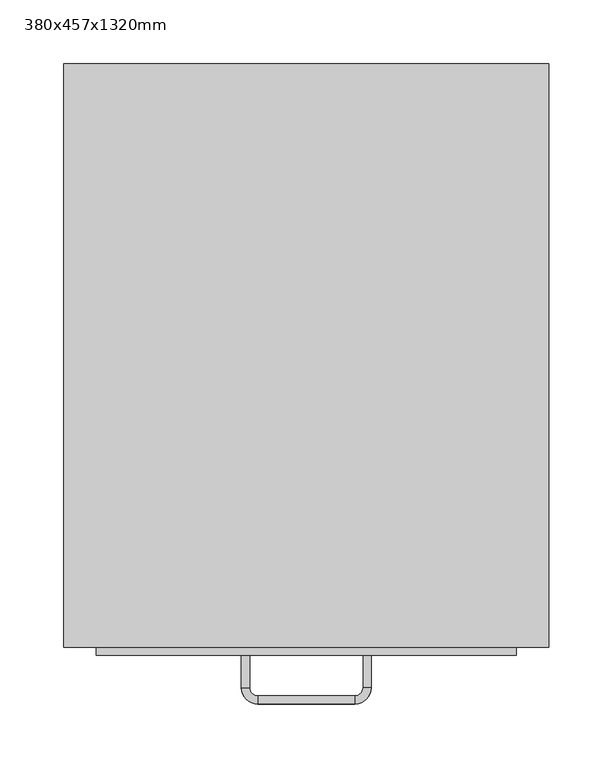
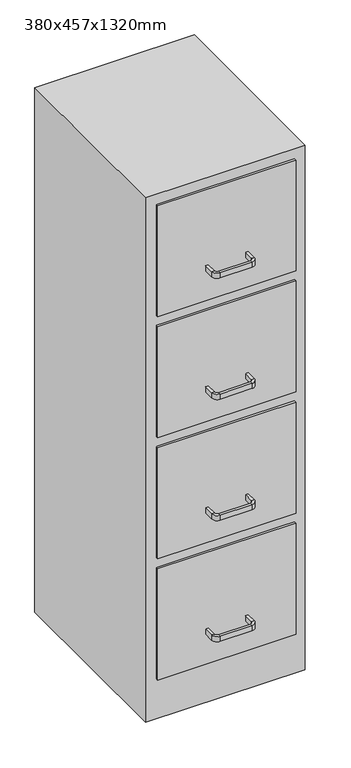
"""IFC4 building model written with IfcOpenShell, lengths in millimetres: furniture geometry, Furniture_Filing_Cabinetx4 : 380x457x1320mm."""

from ifc_helpers import new_model, si_unit, frame, origin, origin_with_axes, place, context, project, spatial, polyline, circle_curve, outline, extrude, source, transform, mapped, element, save
from ifc_brep_helpers import plane_surface, cylinder_surface, revolved_surface, advanced_brep


def furniture_380x457x1320mm_2699b43c(model_context):
    return source(origin(), model_context, "Body", "SolidModel", [
        extrude(outline(polyline([(62.103553, 86.3656999), (62.103553, -370.6343001), (-317.896447, -370.6343001), (-317.896447, 86.3656999), (62.103553, 86.3656999)])), origin_with_axes(), (0.0, 0.0, 1.0), 1320.0),
        extrude(outline(polyline([(36.703553, -376.9843001), (-292.496447, -376.9843001), (-292.496447, -370.6343001), (36.703553, -370.6343001), (36.703553, -376.9843001)])), frame((0.0, 0.0, 1016.0), z_axis=(0.0, 0.0, 1.0), x_axis=(1.0, 0.0, 0.0)), (0.0, 0.0, 1.0), 278.6),
        extrude(outline(polyline([(36.703553, -376.9843001), (-292.496447, -376.9843001), (-292.496447, -370.6343001), (36.703553, -370.6343001), (36.703553, -376.9843001)])), frame((0.0, 0.0, 711.2), z_axis=(0.0, 0.0, 1.0), x_axis=(1.0, 0.0, 0.0)), (0.0, 0.0, 1.0), 279.4),
        extrude(outline(polyline([(36.703553, -376.9843001), (-292.496447, -376.9843001), (-292.496447, -370.6343001), (36.703553, -370.6343001), (36.703553, -376.9843001)])), frame((0.0, 0.0, 406.4), z_axis=(0.0, 0.0, 1.0), x_axis=(1.0, 0.0, 0.0)), (0.0, 0.0, 1.0), 279.4),
        extrude(outline(polyline([(36.703553, -376.9843001), (-292.496447, -376.9843001), (-292.496447, -370.6343001), (36.703553, -370.6343001), (36.703553, -376.9843001)])), frame((0.0, 0.0, 101.6), z_axis=(0.0, 0.0, 1.0), x_axis=(1.0, 0.0, 0.0)), (0.0, 0.0, 1.0), 279.4),
        advanced_brep(
        [(-172.346447, -376.9843001, 177.8), (-178.696447, -376.9843001, 177.8), (-178.696447, -376.9843001, 190.5), (-172.346447, -376.9843001, 190.5), (-172.346447, -402.3843001, 177.8), (-178.696447, -402.3843001, 177.8), (-178.696447, -402.3843001, 190.5), (-172.346447, -402.3843001, 190.5), (-165.996447, -415.0843001, 177.8), (-165.996447, -408.7343001, 177.8), (-165.996447, -415.0843001, 190.5), (-165.996447, -408.7343001, 190.5), (-89.796447, -408.7343001, 177.8), (-89.796447, -415.0843001, 177.8), (-89.796447, -415.0843001, 190.5), (-89.796447, -408.7343001, 190.5), (-77.096447, -402.3843001, 177.8), (-83.446447, -402.3843001, 177.8), (-77.096447, -402.3843001, 190.5), (-83.446447, -402.3843001, 190.5), (-83.446447, -376.9843001, 177.8), (-83.446447, -376.9843001, 190.5), (-77.096447, -376.9843001, 190.5), (-77.096447, -376.9843001, 177.8)],
        [
            (0, 1),
            (1, 2),
            (2, 3),
            (3, 0),
            (0, 4),
            (4, 5),
            (5, 1),
            (5, 6),
            (6, 2),
            (6, 7),
            (7, 3),
            (7, 4),
            (8, 5, circle_curve(frame((-165.996447, -402.3843001, 177.8), z_axis=(0.0, 0.0, -1.0), x_axis=(-1.0, 0.0, 0.0)), 12.7)),
            (4, 9, circle_curve(frame((-165.996447, -402.3843001, 177.8), z_axis=(0.0, 0.0, 1.0), x_axis=(-1.0, 0.0, 0.0)), 6.35)),
            (9, 8),
            (10, 6, circle_curve(frame((-165.996447, -402.3843001, 190.5), z_axis=(0.0, 0.0, -1.0), x_axis=(-1.0, 0.0, 0.0)), 12.7)),
            (8, 10),
            (11, 7, circle_curve(frame((-165.996447, -402.3843001, 190.5), z_axis=(0.0, 0.0, -1.0), x_axis=(-1.0, 0.0, 0.0)), 6.35)),
            (10, 11),
            (11, 9),
            (9, 12),
            (12, 13),
            (13, 8),
            (13, 14),
            (14, 10),
            (14, 15),
            (15, 11),
            (15, 12),
            (16, 13, circle_curve(frame((-89.796447, -402.3843001, 177.8), z_axis=(0.0, 0.0, -1.0), x_axis=(0.0, -1.0, 0.0)), 12.7)),
            (12, 17, circle_curve(frame((-89.796447, -402.3843001, 177.8), z_axis=(0.0, 0.0, 1.0), x_axis=(0.0, -1.0, 0.0)), 6.35)),
            (17, 16),
            (18, 14, circle_curve(frame((-89.796447, -402.3843001, 190.5), z_axis=(0.0, 0.0, -1.0), x_axis=(0.0, -1.0, 0.0)), 12.7)),
            (16, 18),
            (19, 15, circle_curve(frame((-89.796447, -402.3843001, 190.5), z_axis=(0.0, 0.0, -1.0), x_axis=(0.0, -1.0, 0.0)), 6.35)),
            (18, 19),
            (19, 17),
            (20, 21),
            (21, 22),
            (22, 23),
            (23, 20),
            (17, 20),
            (23, 16),
            (22, 18),
            (21, 19),
        ],
        [
            plane_surface(frame((-1283.614694, -376.9843001, 0.0), z_axis=(0.0, 1.0, 0.0), x_axis=(0.0, 0.0, -1.0))),
            plane_surface(frame((-172.346447, -376.9843001, 177.8), z_axis=(0.0, 0.0, -1.0), x_axis=(0.0, -1.0, 0.0))),
            plane_surface(frame((-178.696447, -376.9843001, 177.8), z_axis=(-1.0, 0.0, 0.0), x_axis=(0.0, -1.0, 0.0))),
            plane_surface(frame((-178.696447, -376.9843001, 190.5), z_axis=(0.0, 0.0, 1.0), x_axis=(0.0, -1.0, 0.0))),
            plane_surface(frame((-172.346447, -376.9843001, 190.5), z_axis=(1.0, 0.0, 0.0), x_axis=(0.0, -1.0, 0.0))),
            plane_surface(frame((-165.996447, -402.3843001, 177.8), z_axis=(0.0, 0.0, -1.0), x_axis=(-1.0, 0.0, 0.0))),
            cylinder_surface(frame((-165.996447, -402.3843001, 0.0), z_axis=(0.0, 0.0, 1.0), x_axis=(-1.0, 0.0, 0.0)), 12.7),
            plane_surface(frame((-165.996447, -402.3843001, 190.5), z_axis=(0.0, 0.0, 1.0), x_axis=(-1.0, 0.0, 0.0))),
            revolved_surface(polyline([(-172.34644699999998, -402.3843001, 190.5), (-172.34644699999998, -402.3843001, 177.8)]), (-165.996447, -402.3843001, 0.0), (0.0, 0.0, 1.0)),
            plane_surface(frame((-165.996447, -408.7343001, 177.8), z_axis=(0.0, 0.0, -1.0), x_axis=(1.0, 0.0, 0.0))),
            plane_surface(frame((-165.996447, -415.0843001, 177.8), z_axis=(0.0, -1.0, 0.0), x_axis=(1.0, 0.0, 0.0))),
            plane_surface(frame((-165.996447, -415.0843001, 190.5), z_axis=(0.0, 0.0, 1.0), x_axis=(1.0, 0.0, 0.0))),
            plane_surface(frame((-165.996447, -408.7343001, 190.5), z_axis=(0.0, 1.0, 0.0), x_axis=(1.0, 0.0, 0.0))),
            plane_surface(frame((-89.796447, -402.3843001, 177.8), z_axis=(0.0, 0.0, -1.0), x_axis=(0.0, -1.0, 0.0))),
            cylinder_surface(frame((-89.796447, -402.3843001, 0.0), z_axis=(0.0, 0.0, 1.0), x_axis=(0.0, -1.0, 0.0)), 12.7),
            plane_surface(frame((-89.796447, -402.3843001, 190.5), z_axis=(0.0, 0.0, 1.0), x_axis=(0.0, -1.0, 0.0))),
            revolved_surface(polyline([(-89.796447, -408.73430010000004, 190.5), (-89.796447, -408.73430010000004, 177.8)]), (-89.796447, -402.3843001, 0.0), (0.0, 0.0, 1.0)),
            plane_surface(frame((-1182.014694, -376.9843001, 0.0), z_axis=(0.0, 1.0, 0.0), x_axis=(0.0, 0.0, 1.0))),
            plane_surface(frame((-83.446447, -402.3843001, 177.8), z_axis=(0.0, 0.0, -1.0), x_axis=(0.0, 1.0, 0.0))),
            plane_surface(frame((-77.096447, -402.3843001, 177.8), z_axis=(1.0, 0.0, 0.0), x_axis=(0.0, 1.0, 0.0))),
            plane_surface(frame((-77.096447, -402.3843001, 190.5), z_axis=(0.0, 0.0, 1.0), x_axis=(0.0, 1.0, 0.0))),
            plane_surface(frame((-83.446447, -402.3843001, 190.5), z_axis=(-1.0, 0.0, 0.0), x_axis=(0.0, 1.0, 0.0))),
        ],
        [
            (0, [[1, 2, 3, 4]]),
            (1, [[-1, 5, 6, 7]]),
            (2, [[-2, -7, 8, 9]]),
            (3, [[-3, -9, 10, 11]]),
            (4, [[-4, -11, 12, -5]]),
            (5, [[13, -6, 14, 15]]),
            (6, [[16, -8, -13, 17]]),
            (7, [[18, -10, -16, 19]]),
            (8, [[-14, -12, -18, 20]]),
            (9, [[-15, 21, 22, 23]]),
            (10, [[-17, -23, 24, 25]]),
            (11, [[-19, -25, 26, 27]]),
            (12, [[-20, -27, 28, -21]]),
            (13, [[29, -22, 30, 31]]),
            (14, [[32, -24, -29, 33]]),
            (15, [[34, -26, -32, 35]]),
            (16, [[-30, -28, -34, 36]]),
            (17, [[37, 38, 39, 40]]),
            (18, [[-31, 41, -40, 42]]),
            (19, [[-33, -42, -39, 43]]),
            (20, [[-35, -43, -38, 44]]),
            (21, [[-36, -44, -37, -41]]),
        ],
    ),
        advanced_brep(
        [(-172.346447, -376.9843001, 482.6), (-178.696447, -376.9843001, 482.6), (-178.696447, -376.9843001, 495.3), (-172.346447, -376.9843001, 495.3), (-172.346447, -402.3843001, 482.6), (-178.696447, -402.3843001, 482.6), (-178.696447, -402.3843001, 495.3), (-172.346447, -402.3843001, 495.3), (-165.996447, -415.0843001, 482.6), (-165.996447, -408.7343001, 482.6), (-165.996447, -415.0843001, 495.3), (-165.996447, -408.7343001, 495.3), (-89.796447, -408.7343001, 482.6), (-89.796447, -415.0843001, 482.6), (-89.796447, -415.0843001, 495.3), (-89.796447, -408.7343001, 495.3), (-77.096447, -402.3843001, 482.6), (-83.446447, -402.3843001, 482.6), (-77.096447, -402.3843001, 495.3), (-83.446447, -402.3843001, 495.3), (-83.446447, -376.9843001, 482.6), (-83.446447, -376.9843001, 495.3), (-77.096447, -376.9843001, 495.3), (-77.096447, -376.9843001, 482.6)],
        [
            (0, 1),
            (1, 2),
            (2, 3),
            (3, 0),
            (0, 4),
            (4, 5),
            (5, 1),
            (5, 6),
            (6, 2),
            (6, 7),
            (7, 3),
            (7, 4),
            (8, 5, circle_curve(frame((-165.996447, -402.3843001, 482.6), z_axis=(0.0, 0.0, -1.0), x_axis=(-1.0, 0.0, 0.0)), 12.7)),
            (4, 9, circle_curve(frame((-165.996447, -402.3843001, 482.6), z_axis=(0.0, 0.0, 1.0), x_axis=(-1.0, 0.0, 0.0)), 6.35)),
            (9, 8),
            (10, 6, circle_curve(frame((-165.996447, -402.3843001, 495.3), z_axis=(0.0, 0.0, -1.0), x_axis=(-1.0, 0.0, 0.0)), 12.7)),
            (8, 10),
            (11, 7, circle_curve(frame((-165.996447, -402.3843001, 495.3), z_axis=(0.0, 0.0, -1.0), x_axis=(-1.0, 0.0, 0.0)), 6.35)),
            (10, 11),
            (11, 9),
            (9, 12),
            (12, 13),
            (13, 8),
            (13, 14),
            (14, 10),
            (14, 15),
            (15, 11),
            (15, 12),
            (16, 13, circle_curve(frame((-89.796447, -402.3843001, 482.6), z_axis=(0.0, 0.0, -1.0), x_axis=(0.0, -1.0, 0.0)), 12.7)),
            (12, 17, circle_curve(frame((-89.796447, -402.3843001, 482.6), z_axis=(0.0, 0.0, 1.0), x_axis=(0.0, -1.0, 0.0)), 6.35)),
            (17, 16),
            (18, 14, circle_curve(frame((-89.796447, -402.3843001, 495.3), z_axis=(0.0, 0.0, -1.0), x_axis=(0.0, -1.0, 0.0)), 12.7)),
            (16, 18),
            (19, 15, circle_curve(frame((-89.796447, -402.3843001, 495.3), z_axis=(0.0, 0.0, -1.0), x_axis=(0.0, -1.0, 0.0)), 6.35)),
            (18, 19),
            (19, 17),
            (20, 21),
            (21, 22),
            (22, 23),
            (23, 20),
            (17, 20),
            (23, 16),
            (22, 18),
            (21, 19),
        ],
        [
            plane_surface(frame((-1283.614694, -376.9843001, 0.0), z_axis=(0.0, 1.0, 0.0), x_axis=(0.0, 0.0, -1.0))),
            plane_surface(frame((-172.346447, -376.9843001, 482.6), z_axis=(0.0, 0.0, -1.0), x_axis=(0.0, -1.0, 0.0))),
            plane_surface(frame((-178.696447, -376.9843001, 482.6), z_axis=(-1.0, 0.0, 0.0), x_axis=(0.0, -1.0, 0.0))),
            plane_surface(frame((-178.696447, -376.9843001, 495.3), z_axis=(0.0, 0.0, 1.0), x_axis=(0.0, -1.0, 0.0))),
            plane_surface(frame((-172.346447, -376.9843001, 495.3), z_axis=(1.0, 0.0, 0.0), x_axis=(0.0, -1.0, 0.0))),
            plane_surface(frame((-165.996447, -402.3843001, 482.6), z_axis=(0.0, 0.0, -1.0), x_axis=(-1.0, 0.0, 0.0))),
            cylinder_surface(frame((-165.996447, -402.3843001, 0.0), z_axis=(0.0, 0.0, 1.0), x_axis=(-1.0, 0.0, 0.0)), 12.7),
            plane_surface(frame((-165.996447, -402.3843001, 495.3), z_axis=(0.0, 0.0, 1.0), x_axis=(-1.0, 0.0, 0.0))),
            revolved_surface(polyline([(-172.34644699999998, -402.3843001, 495.3), (-172.34644699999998, -402.3843001, 482.6)]), (-165.996447, -402.3843001, 0.0), (0.0, 0.0, 1.0)),
            plane_surface(frame((-165.996447, -408.7343001, 482.6), z_axis=(0.0, 0.0, -1.0), x_axis=(1.0, 0.0, 0.0))),
            plane_surface(frame((-165.996447, -415.0843001, 482.6), z_axis=(0.0, -1.0, 0.0), x_axis=(1.0, 0.0, 0.0))),
            plane_surface(frame((-165.996447, -415.0843001, 495.3), z_axis=(0.0, 0.0, 1.0), x_axis=(1.0, 0.0, 0.0))),
            plane_surface(frame((-165.996447, -408.7343001, 495.3), z_axis=(0.0, 1.0, 0.0), x_axis=(1.0, 0.0, 0.0))),
            plane_surface(frame((-89.796447, -402.3843001, 482.6), z_axis=(0.0, 0.0, -1.0), x_axis=(0.0, -1.0, 0.0))),
            cylinder_surface(frame((-89.796447, -402.3843001, 0.0), z_axis=(0.0, 0.0, 1.0), x_axis=(0.0, -1.0, 0.0)), 12.7),
            plane_surface(frame((-89.796447, -402.3843001, 495.3), z_axis=(0.0, 0.0, 1.0), x_axis=(0.0, -1.0, 0.0))),
            revolved_surface(polyline([(-89.796447, -408.73430010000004, 495.3), (-89.796447, -408.73430010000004, 482.6)]), (-89.796447, -402.3843001, 0.0), (0.0, 0.0, 1.0)),
            plane_surface(frame((-1182.014694, -376.9843001, 0.0), z_axis=(0.0, 1.0, 0.0), x_axis=(0.0, 0.0, 1.0))),
            plane_surface(frame((-83.446447, -402.3843001, 482.6), z_axis=(0.0, 0.0, -1.0), x_axis=(0.0, 1.0, 0.0))),
            plane_surface(frame((-77.096447, -402.3843001, 482.6), z_axis=(1.0, 0.0, 0.0), x_axis=(0.0, 1.0, 0.0))),
            plane_surface(frame((-77.096447, -402.3843001, 495.3), z_axis=(0.0, 0.0, 1.0), x_axis=(0.0, 1.0, 0.0))),
            plane_surface(frame((-83.446447, -402.3843001, 495.3), z_axis=(-1.0, 0.0, 0.0), x_axis=(0.0, 1.0, 0.0))),
        ],
        [
            (0, [[1, 2, 3, 4]]),
            (1, [[-1, 5, 6, 7]]),
            (2, [[-2, -7, 8, 9]]),
            (3, [[-3, -9, 10, 11]]),
            (4, [[-4, -11, 12, -5]]),
            (5, [[13, -6, 14, 15]]),
            (6, [[16, -8, -13, 17]]),
            (7, [[18, -10, -16, 19]]),
            (8, [[-14, -12, -18, 20]]),
            (9, [[-15, 21, 22, 23]]),
            (10, [[-17, -23, 24, 25]]),
            (11, [[-19, -25, 26, 27]]),
            (12, [[-20, -27, 28, -21]]),
            (13, [[29, -22, 30, 31]]),
            (14, [[32, -24, -29, 33]]),
            (15, [[34, -26, -32, 35]]),
            (16, [[-30, -28, -34, 36]]),
            (17, [[37, 38, 39, 40]]),
            (18, [[-31, 41, -40, 42]]),
            (19, [[-33, -42, -39, 43]]),
            (20, [[-35, -43, -38, 44]]),
            (21, [[-36, -44, -37, -41]]),
        ],
    ),
        advanced_brep(
        [(-172.346447, -376.9843001, 787.4), (-178.696447, -376.9843001, 787.4), (-178.696447, -376.9843001, 800.1), (-172.346447, -376.9843001, 800.1), (-172.346447, -402.3843001, 787.4), (-178.696447, -402.3843001, 787.4), (-178.696447, -402.3843001, 800.1), (-172.346447, -402.3843001, 800.1), (-165.996447, -415.0843001, 787.4), (-165.996447, -408.7343001, 787.4), (-165.996447, -415.0843001, 800.1), (-165.996447, -408.7343001, 800.1), (-89.796447, -408.7343001, 787.4), (-89.796447, -415.0843001, 787.4), (-89.796447, -415.0843001, 800.1), (-89.796447, -408.7343001, 800.1), (-77.096447, -402.3843001, 787.4), (-83.446447, -402.3843001, 787.4), (-77.096447, -402.3843001, 800.1), (-83.446447, -402.3843001, 800.1), (-83.446447, -376.9843001, 787.4), (-83.446447, -376.9843001, 800.1), (-77.096447, -376.9843001, 800.1), (-77.096447, -376.9843001, 787.4)],
        [
            (0, 1),
            (1, 2),
            (2, 3),
            (3, 0),
            (0, 4),
            (4, 5),
            (5, 1),
            (5, 6),
            (6, 2),
            (6, 7),
            (7, 3),
            (7, 4),
            (8, 5, circle_curve(frame((-165.996447, -402.3843001, 787.4), z_axis=(0.0, 0.0, -1.0), x_axis=(-1.0, 0.0, 0.0)), 12.7)),
            (4, 9, circle_curve(frame((-165.996447, -402.3843001, 787.4), z_axis=(0.0, 0.0, 1.0), x_axis=(-1.0, 0.0, 0.0)), 6.35)),
            (9, 8),
            (10, 6, circle_curve(frame((-165.996447, -402.3843001, 800.1), z_axis=(0.0, 0.0, -1.0), x_axis=(-1.0, 0.0, 0.0)), 12.7)),
            (8, 10),
            (11, 7, circle_curve(frame((-165.996447, -402.3843001, 800.1), z_axis=(0.0, 0.0, -1.0), x_axis=(-1.0, 0.0, 0.0)), 6.35)),
            (10, 11),
            (11, 9),
            (9, 12),
            (12, 13),
            (13, 8),
            (13, 14),
            (14, 10),
            (14, 15),
            (15, 11),
            (15, 12),
            (16, 13, circle_curve(frame((-89.796447, -402.3843001, 787.4), z_axis=(0.0, 0.0, -1.0), x_axis=(0.0, -1.0, 0.0)), 12.7)),
            (12, 17, circle_curve(frame((-89.796447, -402.3843001, 787.4), z_axis=(0.0, 0.0, 1.0), x_axis=(0.0, -1.0, 0.0)), 6.35)),
            (17, 16),
            (18, 14, circle_curve(frame((-89.796447, -402.3843001, 800.1), z_axis=(0.0, 0.0, -1.0), x_axis=(0.0, -1.0, 0.0)), 12.7)),
            (16, 18),
            (19, 15, circle_curve(frame((-89.796447, -402.3843001, 800.1), z_axis=(0.0, 0.0, -1.0), x_axis=(0.0, -1.0, 0.0)), 6.35)),
            (18, 19),
            (19, 17),
            (20, 21),
            (21, 22),
            (22, 23),
            (23, 20),
            (17, 20),
            (23, 16),
            (22, 18),
            (21, 19),
        ],
        [
            plane_surface(frame((-1283.614694, -376.9843001, 0.0), z_axis=(0.0, 1.0, 0.0), x_axis=(0.0, 0.0, -1.0))),
            plane_surface(frame((-172.346447, -376.9843001, 787.4), z_axis=(0.0, 0.0, -1.0), x_axis=(0.0, -1.0, 0.0))),
            plane_surface(frame((-178.696447, -376.9843001, 787.4), z_axis=(-1.0, 0.0, 0.0), x_axis=(0.0, -1.0, 0.0))),
            plane_surface(frame((-178.696447, -376.9843001, 800.1), z_axis=(0.0, 0.0, 1.0), x_axis=(0.0, -1.0, 0.0))),
            plane_surface(frame((-172.346447, -376.9843001, 800.1), z_axis=(1.0, 0.0, 0.0), x_axis=(0.0, -1.0, 0.0))),
            plane_surface(frame((-165.996447, -402.3843001, 787.4), z_axis=(0.0, 0.0, -1.0), x_axis=(-1.0, 0.0, 0.0))),
            cylinder_surface(frame((-165.996447, -402.3843001, 0.0), z_axis=(0.0, 0.0, 1.0), x_axis=(-1.0, 0.0, 0.0)), 12.7),
            plane_surface(frame((-165.996447, -402.3843001, 800.1), z_axis=(0.0, 0.0, 1.0), x_axis=(-1.0, 0.0, 0.0))),
            revolved_surface(polyline([(-172.34644699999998, -402.3843001, 800.1), (-172.34644699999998, -402.3843001, 787.4)]), (-165.996447, -402.3843001, 0.0), (0.0, 0.0, 1.0)),
            plane_surface(frame((-165.996447, -408.7343001, 787.4), z_axis=(0.0, 0.0, -1.0), x_axis=(1.0, 0.0, 0.0))),
            plane_surface(frame((-165.996447, -415.0843001, 787.4), z_axis=(0.0, -1.0, 0.0), x_axis=(1.0, 0.0, 0.0))),
            plane_surface(frame((-165.996447, -415.0843001, 800.1), z_axis=(0.0, 0.0, 1.0), x_axis=(1.0, 0.0, 0.0))),
            plane_surface(frame((-165.996447, -408.7343001, 800.1), z_axis=(0.0, 1.0, 0.0), x_axis=(1.0, 0.0, 0.0))),
            plane_surface(frame((-89.796447, -402.3843001, 787.4), z_axis=(0.0, 0.0, -1.0), x_axis=(0.0, -1.0, 0.0))),
            cylinder_surface(frame((-89.796447, -402.3843001, 0.0), z_axis=(0.0, 0.0, 1.0), x_axis=(0.0, -1.0, 0.0)), 12.7),
            plane_surface(frame((-89.796447, -402.3843001, 800.1), z_axis=(0.0, 0.0, 1.0), x_axis=(0.0, -1.0, 0.0))),
            revolved_surface(polyline([(-89.796447, -408.73430010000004, 800.1), (-89.796447, -408.73430010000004, 787.4)]), (-89.796447, -402.3843001, 0.0), (0.0, 0.0, 1.0)),
            plane_surface(frame((-1182.014694, -376.9843001, 0.0), z_axis=(0.0, 1.0, 0.0), x_axis=(0.0, 0.0, 1.0))),
            plane_surface(frame((-83.446447, -402.3843001, 787.4), z_axis=(0.0, 0.0, -1.0), x_axis=(0.0, 1.0, 0.0))),
            plane_surface(frame((-77.096447, -402.3843001, 787.4), z_axis=(1.0, 0.0, 0.0), x_axis=(0.0, 1.0, 0.0))),
            plane_surface(frame((-77.096447, -402.3843001, 800.1), z_axis=(0.0, 0.0, 1.0), x_axis=(0.0, 1.0, 0.0))),
            plane_surface(frame((-83.446447, -402.3843001, 800.1), z_axis=(-1.0, 0.0, 0.0), x_axis=(0.0, 1.0, 0.0))),
        ],
        [
            (0, [[1, 2, 3, 4]]),
            (1, [[-1, 5, 6, 7]]),
            (2, [[-2, -7, 8, 9]]),
            (3, [[-3, -9, 10, 11]]),
            (4, [[-4, -11, 12, -5]]),
            (5, [[13, -6, 14, 15]]),
            (6, [[16, -8, -13, 17]]),
            (7, [[18, -10, -16, 19]]),
            (8, [[-14, -12, -18, 20]]),
            (9, [[-15, 21, 22, 23]]),
            (10, [[-17, -23, 24, 25]]),
            (11, [[-19, -25, 26, 27]]),
            (12, [[-20, -27, 28, -21]]),
            (13, [[29, -22, 30, 31]]),
            (14, [[32, -24, -29, 33]]),
            (15, [[34, -26, -32, 35]]),
            (16, [[-30, -28, -34, 36]]),
            (17, [[37, 38, 39, 40]]),
            (18, [[-31, 41, -40, 42]]),
            (19, [[-33, -42, -39, 43]]),
            (20, [[-35, -43, -38, 44]]),
            (21, [[-36, -44, -37, -41]]),
        ],
    ),
        advanced_brep(
        [(-172.346447, -376.9843001, 1092.2), (-178.696447, -376.9843001, 1092.2), (-178.696447, -376.9843001, 1104.9), (-172.346447, -376.9843001, 1104.9), (-172.346447, -402.3843001, 1092.2), (-178.696447, -402.3843001, 1092.2), (-178.696447, -402.3843001, 1104.9), (-172.346447, -402.3843001, 1104.9), (-165.996447, -415.0843001, 1092.2), (-165.996447, -408.7343001, 1092.2), (-165.996447, -415.0843001, 1104.9), (-165.996447, -408.7343001, 1104.9), (-89.796447, -408.7343001, 1092.2), (-89.796447, -415.0843001, 1092.2), (-89.796447, -415.0843001, 1104.9), (-89.796447, -408.7343001, 1104.9), (-77.096447, -402.3843001, 1092.2), (-83.446447, -402.3843001, 1092.2), (-77.096447, -402.3843001, 1104.9), (-83.446447, -402.3843001, 1104.9), (-83.446447, -376.9843001, 1092.2), (-83.446447, -376.9843001, 1104.9), (-77.096447, -376.9843001, 1104.9), (-77.096447, -376.9843001, 1092.2)],
        [
            (0, 1),
            (1, 2),
            (2, 3),
            (3, 0),
            (0, 4),
            (4, 5),
            (5, 1),
            (5, 6),
            (6, 2),
            (6, 7),
            (7, 3),
            (7, 4),
            (8, 5, circle_curve(frame((-165.996447, -402.3843001, 1092.2), z_axis=(0.0, 0.0, -1.0), x_axis=(-1.0, 0.0, 0.0)), 12.7)),
            (4, 9, circle_curve(frame((-165.996447, -402.3843001, 1092.2), z_axis=(0.0, 0.0, 1.0), x_axis=(-1.0, 0.0, 0.0)), 6.35)),
            (9, 8),
            (10, 6, circle_curve(frame((-165.996447, -402.3843001, 1104.9), z_axis=(0.0, 0.0, -1.0), x_axis=(-1.0, 0.0, 0.0)), 12.7)),
            (8, 10),
            (11, 7, circle_curve(frame((-165.996447, -402.3843001, 1104.9), z_axis=(0.0, 0.0, -1.0), x_axis=(-1.0, 0.0, 0.0)), 6.35)),
            (10, 11),
            (11, 9),
            (9, 12),
            (12, 13),
            (13, 8),
            (13, 14),
            (14, 10),
            (14, 15),
            (15, 11),
            (15, 12),
            (16, 13, circle_curve(frame((-89.796447, -402.3843001, 1092.2), z_axis=(0.0, 0.0, -1.0), x_axis=(0.0, -1.0, 0.0)), 12.7)),
            (12, 17, circle_curve(frame((-89.796447, -402.3843001, 1092.2), z_axis=(0.0, 0.0, 1.0), x_axis=(0.0, -1.0, 0.0)), 6.35)),
            (17, 16),
            (18, 14, circle_curve(frame((-89.796447, -402.3843001, 1104.9), z_axis=(0.0, 0.0, -1.0), x_axis=(0.0, -1.0, 0.0)), 12.7)),
            (16, 18),
            (19, 15, circle_curve(frame((-89.796447, -402.3843001, 1104.9), z_axis=(0.0, 0.0, -1.0), x_axis=(0.0, -1.0, 0.0)), 6.35)),
            (18, 19),
            (19, 17),
            (20, 21),
            (21, 22),
            (22, 23),
            (23, 20),
            (17, 20),
            (23, 16),
            (22, 18),
            (21, 19),
        ],
        [
            plane_surface(frame((-1283.614694, -376.9843001, 0.0), z_axis=(0.0, 1.0, 0.0), x_axis=(0.0, 0.0, -1.0))),
            plane_surface(frame((-172.346447, -376.9843001, 1092.2), z_axis=(0.0, 0.0, -1.0), x_axis=(0.0, -1.0, 0.0))),
            plane_surface(frame((-178.696447, -376.9843001, 1092.2), z_axis=(-1.0, 0.0, 0.0), x_axis=(0.0, -1.0, 0.0))),
            plane_surface(frame((-178.696447, -376.9843001, 1104.9), z_axis=(0.0, 0.0, 1.0), x_axis=(0.0, -1.0, 0.0))),
            plane_surface(frame((-172.346447, -376.9843001, 1104.9), z_axis=(1.0, 0.0, 0.0), x_axis=(0.0, -1.0, 0.0))),
            plane_surface(frame((-165.996447, -402.3843001, 1092.2), z_axis=(0.0, 0.0, -1.0), x_axis=(-1.0, 0.0, 0.0))),
            cylinder_surface(frame((-165.996447, -402.3843001, 0.0), z_axis=(0.0, 0.0, 1.0), x_axis=(-1.0, 0.0, 0.0)), 12.7),
            plane_surface(frame((-165.996447, -402.3843001, 1104.9), z_axis=(0.0, 0.0, 1.0), x_axis=(-1.0, 0.0, 0.0))),
            revolved_surface(polyline([(-172.34644699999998, -402.3843001, 1104.9), (-172.34644699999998, -402.3843001, 1092.2)]), (-165.996447, -402.3843001, 0.0), (0.0, 0.0, 1.0)),
            plane_surface(frame((-165.996447, -408.7343001, 1092.2), z_axis=(0.0, 0.0, -1.0), x_axis=(1.0, 0.0, 0.0))),
            plane_surface(frame((-165.996447, -415.0843001, 1092.2), z_axis=(0.0, -1.0, 0.0), x_axis=(1.0, 0.0, 0.0))),
            plane_surface(frame((-165.996447, -415.0843001, 1104.9), z_axis=(0.0, 0.0, 1.0), x_axis=(1.0, 0.0, 0.0))),
            plane_surface(frame((-165.996447, -408.7343001, 1104.9), z_axis=(0.0, 1.0, 0.0), x_axis=(1.0, 0.0, 0.0))),
            plane_surface(frame((-89.796447, -402.3843001, 1092.2), z_axis=(0.0, 0.0, -1.0), x_axis=(0.0, -1.0, 0.0))),
            cylinder_surface(frame((-89.796447, -402.3843001, 0.0), z_axis=(0.0, 0.0, 1.0), x_axis=(0.0, -1.0, 0.0)), 12.7),
            plane_surface(frame((-89.796447, -402.3843001, 1104.9), z_axis=(0.0, 0.0, 1.0), x_axis=(0.0, -1.0, 0.0))),
            revolved_surface(polyline([(-89.796447, -408.73430010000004, 1104.9), (-89.796447, -408.73430010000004, 1092.2)]), (-89.796447, -402.3843001, 0.0), (0.0, 0.0, 1.0)),
            plane_surface(frame((-1182.014694, -376.9843001, 0.0), z_axis=(0.0, 1.0, 0.0), x_axis=(0.0, 0.0, 1.0))),
            plane_surface(frame((-83.446447, -402.3843001, 1092.2), z_axis=(0.0, 0.0, -1.0), x_axis=(0.0, 1.0, 0.0))),
            plane_surface(frame((-77.096447, -402.3843001, 1092.2), z_axis=(1.0, 0.0, 0.0), x_axis=(0.0, 1.0, 0.0))),
            plane_surface(frame((-77.096447, -402.3843001, 1104.9), z_axis=(0.0, 0.0, 1.0), x_axis=(0.0, 1.0, 0.0))),
            plane_surface(frame((-83.446447, -402.3843001, 1104.9), z_axis=(-1.0, 0.0, 0.0), x_axis=(0.0, 1.0, 0.0))),
        ],
        [
            (0, [[1, 2, 3, 4]]),
            (1, [[-1, 5, 6, 7]]),
            (2, [[-2, -7, 8, 9]]),
            (3, [[-3, -9, 10, 11]]),
            (4, [[-4, -11, 12, -5]]),
            (5, [[13, -6, 14, 15]]),
            (6, [[16, -8, -13, 17]]),
            (7, [[18, -10, -16, 19]]),
            (8, [[-14, -12, -18, 20]]),
            (9, [[-15, 21, 22, 23]]),
            (10, [[-17, -23, 24, 25]]),
            (11, [[-19, -25, 26, 27]]),
            (12, [[-20, -27, 28, -21]]),
            (13, [[29, -22, 30, 31]]),
            (14, [[32, -24, -29, 33]]),
            (15, [[34, -26, -32, 35]]),
            (16, [[-30, -28, -34, 36]]),
            (17, [[37, 38, 39, 40]]),
            (18, [[-31, 41, -40, 42]]),
            (19, [[-33, -42, -39, 43]]),
            (20, [[-35, -43, -38, 44]]),
            (21, [[-36, -44, -37, -41]]),
        ],
    ),
    ])


if __name__ == "__main__":
    model = new_model("IFC4")
    model_context = context("Model", 3, world=origin())
    ifc_project = project(units=[si_unit("LENGTHUNIT", "METRE", prefix="MILLI")], contexts=[model_context])
    site = spatial("IfcSite", under=ifc_project)
    building = spatial("IfcBuilding", under=site)
    placement = place(None, origin())
    furniture_380x457x1320mm_shape = furniture_380x457x1320mm_2699b43c(model_context)
    element("IfcFurniture", 1, ObjectType="Furniture_Filing_Cabinetx4 : 380x457x1320mm", at=placement, inside=building, context=model_context, shape_type="MappedRepresentation", body=[
        mapped(furniture_380x457x1320mm_shape, transform((0.0, 0.0, 0.0), x_axis=(1.0, 0.0, 0.0), y_axis=(0.0, 1.0, 0.0), z_axis=(0.0, 0.0, 1.0))),
    ])
    save(model, "model.ifc")
